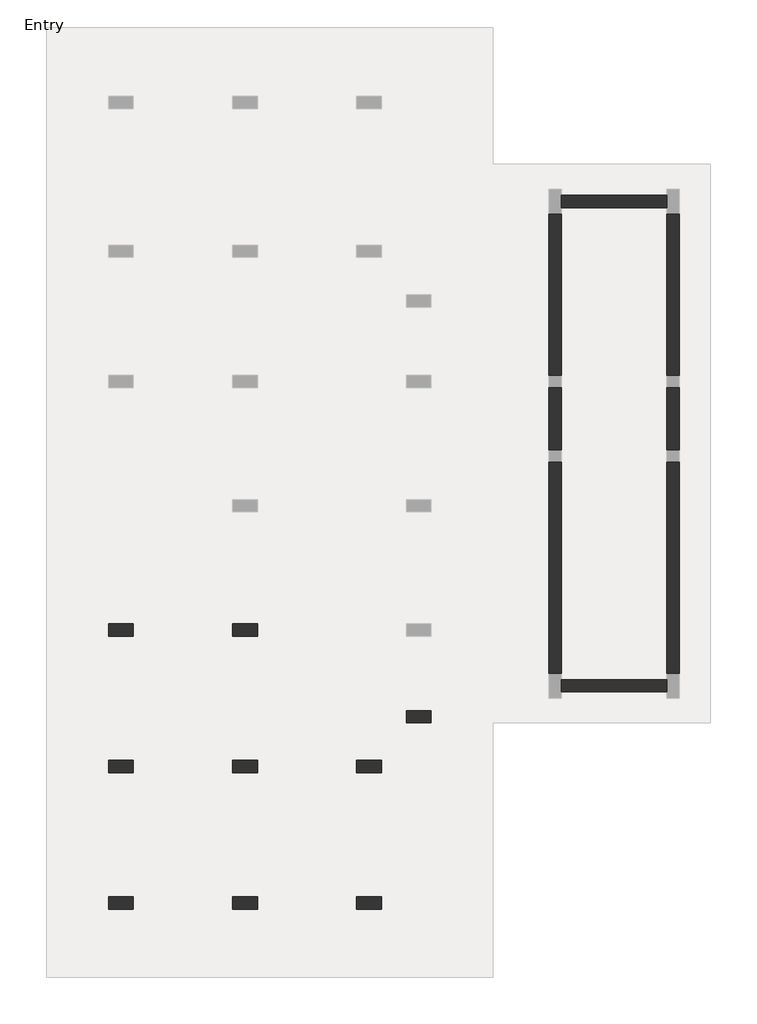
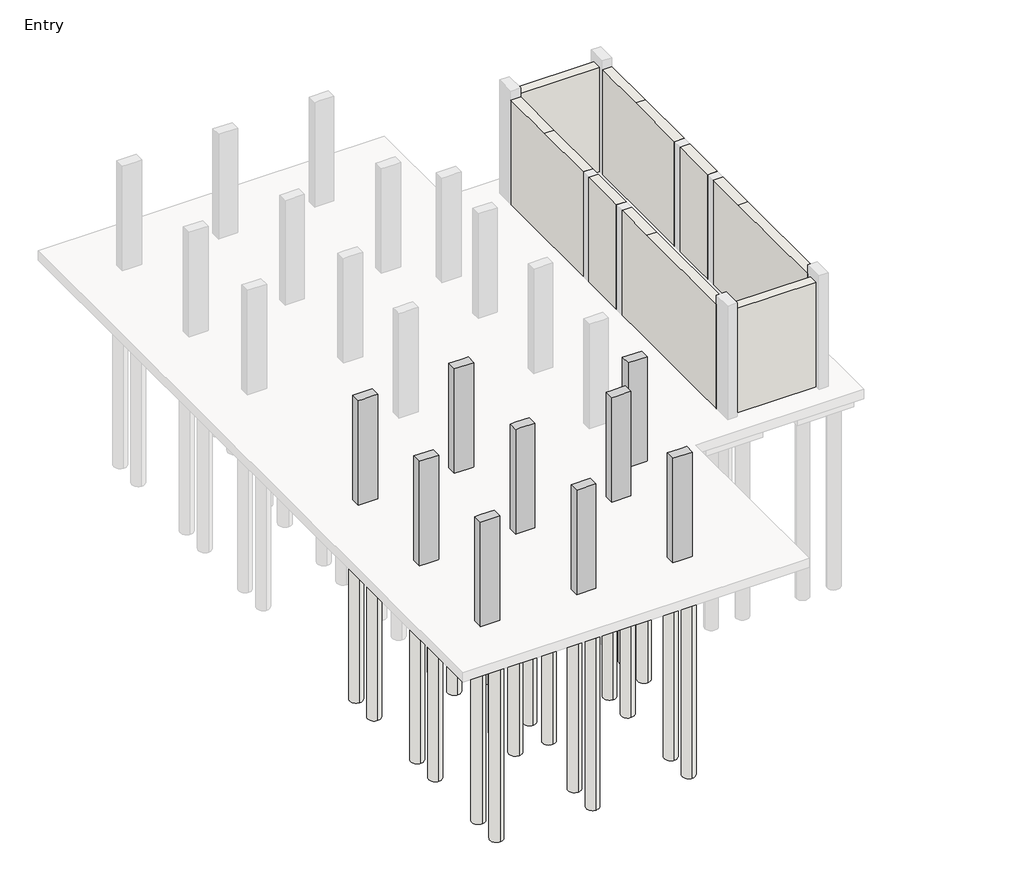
# One storey, part 1 of 3: 30 slabs, 9 columns, 8 walls.
"""IFC4 building model written with IfcOpenShell, lengths in millimetres."""

import ifcopenshell
import ifcopenshell.guid

model = None  # the IFC model being written
_history = None  # IfcOwnerHistory: only IFC2X3 demands one
_inside = {}  # id of a spatial element -> (the spatial element, [elements in it])
_under = {}  # id of a project, library or spatial element -> (it, [spatial elements below it])
_declared = {}  # id of a project -> (the project, [libraries it declares])
_typed = {}  # id of a type object -> (the type object, [elements of that type])
_made_of = {}  # id of a material, layer set ... -> (it, [elements and type objects made of it])


def new_model(schema):
    """Start an empty IFC model of exactly this schema.

    Asked for "IFC4X3", IfcOpenShell would pick the latest addendum, in which some entities
    have other attributes; the version numbers below select the first issue.
    IFC2X3 requires an IfcOwnerHistory on every rooted entity: one is made here for all.
    """
    global model, _history
    if schema == "IFC4X3":
        model = ifcopenshell.file(schema_version=(4, 3, 0, 0))
    else:
        model = ifcopenshell.file(schema=schema)
    _inside.clear()
    _under.clear()
    _declared.clear()
    _typed.clear()
    _made_of.clear()
    _history = None
    if model.schema == "IFC2X3":
        org = make("IfcOrganization", Name="unknown")
        user = make(
            "IfcPersonAndOrganization",
            ThePerson=make("IfcPerson", FamilyName="unknown"),
            TheOrganization=org,
        )
        app = make(
            "IfcApplication",
            ApplicationDeveloper=org,
            Version="unknown",
            ApplicationFullName="unknown",
            ApplicationIdentifier="unknown",
        )
        _history = make(
            "IfcOwnerHistory",
            OwningUser=user,
            OwningApplication=app,
            ChangeAction="ADDED",
            CreationDate=0,
        )
    return model


def make(cls, **values):
    """One entity of the class cls with the attributes given. An attribute that is None is left unset."""
    return model.create_entity(
        cls, **{name: value for name, value in values.items() if value is not None}
    )


def rooted(cls, **values):
    """An entity with a GlobalId (a new one), such as an element, a storey or a relation."""
    return make(cls, GlobalId=ifcopenshell.guid.new(), OwnerHistory=_history, **values)


def si_unit(unit_type, name, prefix=None):
    """IfcSIUnit, for example si_unit("LENGTHUNIT", "METRE", prefix="MILLI")."""
    return make("IfcSIUnit", UnitType=unit_type, Prefix=prefix, Name=name)


def assignment(units):
    """IfcUnitAssignment: the units of a project."""
    return None if units is None else make("IfcUnitAssignment", Units=units)


def point(xyz):
    """IfcCartesianPoint."""
    return None if xyz is None else make("IfcCartesianPoint", Coordinates=xyz)


def direction(xyz):
    """IfcDirection."""
    return None if xyz is None else make("IfcDirection", DirectionRatios=xyz)


def frame(location, z_axis=None, x_axis=None):
    """IfcAxis2Placement3D, a coordinate frame: its origin and axes. An axis left out is left unset."""
    return make(
        "IfcAxis2Placement3D",
        Location=point(location),
        Axis=direction(z_axis),
        RefDirection=direction(x_axis),
    )


def frame_2d(location, x_axis=None):
    """IfcAxis2Placement2D, a coordinate frame in the plane: its origin and x axis."""
    return make(
        "IfcAxis2Placement2D", Location=point(location), RefDirection=direction(x_axis)
    )


def origin():
    """The frame at (0, 0, 0) with its axes left unset."""
    return frame((0.0, 0.0, 0.0))


def origin_with_axes():
    """The frame at (0, 0, 0) with the z axis (0, 0, 1) and the x axis (1, 0, 0) written out."""
    return frame((0.0, 0.0, 0.0), z_axis=(0.0, 0.0, 1.0), x_axis=(1.0, 0.0, 0.0))


def place(relative_to, where):
    """IfcLocalPlacement: puts the frame where relative to a parent placement (None: the world)."""
    return make(
        "IfcLocalPlacement", PlacementRelTo=relative_to, RelativePlacement=where
    )


def context(
    kind, dimensions, precision=None, world=None, true_north=None, identifier=None
):
    """IfcGeometricRepresentationContext, for example the 3D "Model" context."""
    return make(
        "IfcGeometricRepresentationContext",
        ContextIdentifier=identifier,
        ContextType=kind,
        CoordinateSpaceDimension=dimensions,
        Precision=precision,
        WorldCoordinateSystem=world,
        TrueNorth=true_north,
    )


def project(units=None, contexts=None):
    """IfcProject with its units and contexts."""
    return rooted(
        "IfcProject",
        Name="project",
        RepresentationContexts=contexts,
        UnitsInContext=assignment(units),
    )


def spatial(cls, under=None, at=None, **own):
    """A site, building, storey or space (cls), placed at a placement, below another one or the project."""
    s = rooted(cls, ObjectPlacement=at, **own)
    if under is not None:
        _under.setdefault(under.id(), (under, []))[1].append(s)
    return s


def polyline(points):
    """IfcPolyline through the points."""
    return make("IfcPolyline", Points=[point(p) for p in points])


def circle_curve(where, radius):
    """IfcCircle in the frame where."""
    return make("IfcCircle", Position=where, Radius=radius)


def trimmed(basis, trim1, trim2, sense, master):
    """IfcTrimmedCurve: the piece of a basis curve between two trims."""
    return make(
        "IfcTrimmedCurve",
        BasisCurve=basis,
        Trim1=trim1,
        Trim2=trim2,
        SenseAgreement=sense,
        MasterRepresentation=master,
    )


def segment(curve, same_sense, transition):
    """IfcCompositeCurveSegment."""
    return make(
        "IfcCompositeCurveSegment",
        Transition=transition,
        SameSense=same_sense,
        ParentCurve=curve,
    )


def composite_curve(segments, self_intersect=None):
    """IfcCompositeCurve: segments joined end to end."""
    return make("IfcCompositeCurve", Segments=segments, SelfIntersect=self_intersect)


def outline(outer, holes=None, kind="AREA"):
    """IfcArbitraryClosedProfileDef: a profile drawn as a closed curve; with holes, ...WithVoids."""
    if holes is None:
        return make("IfcArbitraryClosedProfileDef", ProfileType=kind, OuterCurve=outer)
    return make(
        "IfcArbitraryProfileDefWithVoids",
        ProfileType=kind,
        OuterCurve=outer,
        InnerCurves=holes,
    )


def extrude(swept, where, along, depth):
    """IfcExtrudedAreaSolid: the profile swept, set in the frame where, extruded along a direction by depth."""
    return make(
        "IfcExtrudedAreaSolid",
        SweptArea=swept,
        Position=where,
        ExtrudedDirection=direction(along),
        Depth=depth,
    )


def faces_of(points, faces, orient=None, outer=None):
    """IfcFace entities. A face is a list of loops; a loop is a list of indices into points, from 0.

    orient and outer hold one flag for each loop. By default every Orientation is true, the
    first loop of a face is its IfcFaceOuterBound and the others are IfcFaceBound.
    """
    made = []
    for i, loops in enumerate(faces):
        bounds = []
        for j, loop in enumerate(loops):
            is_outer = j == 0 if outer is None else outer[i][j]
            bounds.append(
                make(
                    "IfcFaceOuterBound" if is_outer else "IfcFaceBound",
                    Bound=make("IfcPolyLoop", Polygon=[points[k] for k in loop]),
                    Orientation=True if orient is None else orient[i][j],
                )
            )
        made.append(make("IfcFace", Bounds=bounds))
    return made


def faceted_brep(points, faces, orient=None, outer=None, voids=None):
    """IfcFacetedBrep: a solid bounded by flat faces; with voids (closed shells), ...WithVoids."""
    shared = [point(p) for p in points]
    hull = make("IfcClosedShell", CfsFaces=faces_of(shared, faces, orient, outer))
    if voids is None:
        return make("IfcFacetedBrep", Outer=hull)
    return make(
        "IfcFacetedBrepWithVoids",
        Outer=hull,
        Voids=[
            make(cls, CfsFaces=faces_of(shared, fs, o, b)) for cls, fs, o, b in voids
        ],
    )


def shape(context_of_items, identifier, shape_type, items):
    """IfcShapeRepresentation: the items that make up one representation, for example the "Body"."""
    return make(
        "IfcShapeRepresentation",
        ContextOfItems=context_of_items,
        RepresentationIdentifier=identifier,
        RepresentationType=shape_type,
        Items=items,
    )


def made_of(thing, what):
    """Note that an element or type object is made of a material, layer set ...; save() writes the relation."""
    if what is not None:
        _made_of.setdefault(what.id(), (what, []))[1].append(thing)
    return thing


def element(
    cls,
    number,
    at=None,
    inside=None,
    cuts=None,
    type_object=None,
    material=None,
    context=None,
    identifier="Body",
    shape_type=None,
    held_by="IfcProductDefinitionShape",
    body=None,
    shapes=None,
    **own,
):
    """One element of the class cls, such as IfcWall. Its Tag is "e" and its number.

    at: its placement. inside: the storey or other place that contains it. cuts: it is an
    opening in that element (IfcRelVoidsElement). A single representation is given by context,
    identifier, shape_type and body (its items); several are given by shapes. held_by: the class
    of the entity that holds the representations. save() writes the other relations.
    """
    e = rooted(cls, Tag="e%d" % number, ObjectPlacement=at, **own)
    if body is not None:
        shapes = [shape(context, identifier, shape_type, body)]
    if shapes is not None:
        e.Representation = make(held_by, Representations=shapes)
    if inside is not None:
        _inside.setdefault(inside.id(), (inside, []))[1].append(e)
    if cuts is not None:
        rooted(
            "IfcRelVoidsElement", RelatingBuildingElement=cuts, RelatedOpeningElement=e
        )
    if type_object is not None:
        _typed.setdefault(type_object.id(), (type_object, []))[1].append(e)
    return made_of(e, material)


def aggregate(whole, parts):
    """IfcRelAggregates: a whole, such as a stair, and the parts it consists of."""
    return rooted("IfcRelAggregates", RelatingObject=whole, RelatedObjects=parts)


def save(model, path):
    """Write the relations noted so far, then the file.

    IfcRelAggregates (storeys below a building ...), IfcRelContainedInSpatialStructure (elements
    in a storey), IfcRelDefinesByType, IfcRelAssociatesMaterial and IfcRelDeclares: one each for
    every whole, place, type object, material and project.
    """
    for whole, parts in _under.values():
        aggregate(whole, parts)
    for where, things in _inside.values():
        rooted(
            "IfcRelContainedInSpatialStructure",
            RelatedElements=things,
            RelatingStructure=where,
        )
    for kind, things in _typed.values():
        rooted("IfcRelDefinesByType", RelatedObjects=things, RelatingType=kind)
    for what, things in _made_of.values():
        rooted("IfcRelAssociatesMaterial", RelatedObjects=things, RelatingMaterial=what)
    for by, libraries in _declared.values():
        rooted("IfcRelDeclares", RelatingContext=by, RelatedDefinitions=libraries)
    model.write(path)


model = new_model("IFC4")

# Units and contexts
model_context = context("Model", 3, world=origin())
ifc_project = project(units=[si_unit("LENGTHUNIT", "METRE", prefix="MILLI")], contexts=[model_context])

# Site, building, storey
site = spatial("IfcSite", under=ifc_project)
building = spatial("IfcBuilding", under=site)
storey = spatial("IfcBuildingStorey", under=building, Name="Entry", Elevation=0.0)

# Columns
placement = place(None, origin())
element("IfcColumn", 1, ObjectType="Concrete-Rectangular-Column : 12 x 24", at=placement, inside=storey, context=model_context, shape_type="Brep", body=[
    faceted_brep([(-15677.5554735, 1692.9867088, 0.0), (-15067.9554735, 1692.9867088, 0.0), (-15067.9554735, 1388.1867088, 0.0), (-15677.5554735, 1388.1867088, 0.0), (-15677.5554735, 1692.9867088, 3505.2), (-15067.9554735, 1692.9867088, 3505.2), (-15067.9554735, 1692.9867088, 2895.6), (-15067.9554735, 1388.1867088, 3505.2), (-15067.9554735, 1388.1867088, 2895.6), (-15220.3554735, 1388.1867088, 3505.2), (-15525.1554735, 1388.1867088, 3505.2), (-15677.5554735, 1388.1867088, 3505.2)], [[[0, 1, 2, 3]], [[4, 5, 6, 1, 0]], [[5, 7, 8, 2, 1, 6]], [[7, 9, 10, 11, 3, 2, 8]], [[11, 4, 0, 3]], [[4, 11, 10, 9, 7, 5]]]),
])
element("IfcColumn", 2, ObjectType="Concrete-Rectangular-Column : 12 x 24", at=placement, inside=storey, context=model_context, shape_type="Brep", body=[
    faceted_brep([(-12629.5554735, 1692.9867088, 0.0), (-12019.9554735, 1692.9867088, 0.0), (-12019.9554735, 1388.1867088, 0.0), (-12629.5554735, 1388.1867088, 0.0), (-12629.5554735, 1692.9867088, 3505.2), (-12477.1554735, 1692.9867088, 3505.2), (-12172.3554735, 1692.9867088, 3505.2), (-12019.9554735, 1692.9867088, 3505.2), (-12019.9554735, 1692.9867088, 2895.6), (-12629.5554735, 1692.9867088, 2895.6), (-12019.9554735, 1388.1867088, 3505.2), (-12019.9554735, 1388.1867088, 2895.6), (-12172.3554735, 1388.1867088, 3505.2), (-12477.1554735, 1388.1867088, 3505.2), (-12629.5554735, 1388.1867088, 3505.2), (-12629.5554735, 1388.1867088, 2895.6)], [[[0, 1, 2, 3]], [[4, 5, 6, 7, 8, 1, 0, 9]], [[7, 10, 11, 2, 1, 8]], [[10, 12, 13, 14, 15, 3, 2, 11]], [[14, 4, 9, 0, 3, 15]], [[4, 14, 13, 12, 10, 7, 6, 5]]]),
])
element("IfcColumn", 3, ObjectType="Concrete-Rectangular-Column : 12 x 24", at=placement, inside=storey, context=model_context, shape_type="Brep", body=[
    faceted_brep([(-8362.3554735, -440.6132912, 0.0), (-7752.7554735, -440.6132912, 0.0), (-7752.7554735, -745.4132912, 0.0), (-8362.3554735, -745.4132912, 0.0), (-8362.3554735, -440.6132912, 3505.2), (-8209.9554735, -440.6132912, 3505.2), (-7905.1554735, -440.6132912, 3505.2), (-7752.7554735, -440.6132912, 3505.2), (-8362.3554735, -440.6132912, 2895.6), (-7752.7554735, -745.4132912, 3505.2), (-8362.3554735, -745.4132912, 3505.2), (-8362.3554735, -745.4132912, 2895.6)], [[[0, 1, 2, 3]], [[4, 5, 6, 7, 1, 0, 8]], [[7, 9, 2, 1]], [[9, 10, 11, 3, 2]], [[10, 4, 8, 0, 3, 11]], [[4, 10, 9, 7, 6, 5]]]),
])
element("IfcColumn", 4, ObjectType="Concrete-Rectangular-Column : 12 x 24", at=placement, inside=storey, context=model_context, shape_type="Brep", body=[
    faceted_brep([(-15677.5554735, -1659.8132912, 0.0), (-15067.9554735, -1659.8132912, 0.0), (-15067.9554735, -1964.6132912, 0.0), (-15677.5554735, -1964.6132912, 0.0), (-15677.5554735, -1659.8132912, 3505.2), (-15525.1554735, -1659.8132912, 3505.2), (-15220.3554735, -1659.8132912, 3505.2), (-15067.9554735, -1659.8132912, 3505.2), (-15067.9554735, -1659.8132912, 2895.6), (-15067.9554735, -1964.6132912, 3505.2), (-15067.9554735, -1964.6132912, 2895.6), (-15220.3554735, -1964.6132912, 3505.2), (-15525.1554735, -1964.6132912, 3505.2), (-15677.5554735, -1964.6132912, 3505.2)], [[[0, 1, 2, 3]], [[4, 5, 6, 7, 8, 1, 0]], [[7, 9, 10, 2, 1, 8]], [[9, 11, 12, 13, 3, 2, 10]], [[13, 4, 0, 3]], [[4, 13, 12, 11, 9, 7, 6, 5]]]),
])
element("IfcColumn", 5, ObjectType="Concrete-Rectangular-Column : 12 x 24", at=placement, inside=storey, context=model_context, shape_type="Brep", body=[
    faceted_brep([(-12629.5554735, -1659.8132912, 0.0), (-12019.9554735, -1659.8132912, 0.0), (-12019.9554735, -1964.6132912, 0.0), (-12629.5554735, -1964.6132912, 0.0), (-12629.5554735, -1659.8132912, 3505.2), (-12477.1554735, -1659.8132912, 3505.2), (-12172.3554735, -1659.8132912, 3505.2), (-12019.9554735, -1659.8132912, 3505.2), (-12019.9554735, -1659.8132912, 2895.6), (-12629.5554735, -1659.8132912, 2895.6), (-12019.9554735, -1964.6132912, 3505.2), (-12019.9554735, -1964.6132912, 2895.6), (-12172.3554735, -1964.6132912, 3505.2), (-12477.1554735, -1964.6132912, 3505.2), (-12629.5554735, -1964.6132912, 3505.2), (-12629.5554735, -1964.6132912, 2895.6)], [[[0, 1, 2, 3]], [[4, 5, 6, 7, 8, 1, 0, 9]], [[7, 10, 11, 2, 1, 8]], [[10, 12, 13, 14, 15, 3, 2, 11]], [[14, 4, 9, 0, 3, 15]], [[4, 14, 13, 12, 10, 7, 6, 5]]]),
])
element("IfcColumn", 6, ObjectType="Concrete-Rectangular-Column : 12 x 24", at=placement, inside=storey, context=model_context, shape_type="Brep", body=[
    faceted_brep([(-9581.5554735, -1659.8132912, 0.0), (-8971.9554735, -1659.8132912, 0.0), (-8971.9554735, -1964.6132912, 0.0), (-9581.5554735, -1964.6132912, 0.0), (-9581.5554735, -1659.8132912, 3505.2), (-9429.1554735, -1659.8132912, 3505.2), (-9124.3554735, -1659.8132912, 3505.2), (-8971.9554735, -1659.8132912, 3505.2), (-9581.5554735, -1659.8132912, 2895.6), (-8971.9554735, -1964.6132912, 3505.2), (-9124.3554735, -1964.6132912, 3505.2), (-9429.1554735, -1964.6132912, 3505.2), (-9581.5554735, -1964.6132912, 3505.2), (-9581.5554735, -1964.6132912, 2895.6)], [[[0, 1, 2, 3]], [[4, 5, 6, 7, 1, 0, 8]], [[7, 9, 2, 1]], [[9, 10, 11, 12, 13, 3, 2]], [[12, 4, 8, 0, 3, 13]], [[4, 12, 11, 10, 9, 7, 6, 5]]]),
])
element("IfcColumn", 7, ObjectType="Concrete-Rectangular-Column : 12 x 24", at=placement, inside=storey, context=model_context, shape_type="Brep", body=[
    faceted_brep([(-15677.5554735, -5012.6132912, 0.0), (-15067.9554735, -5012.6132912, 0.0), (-15067.9554735, -5317.4132912, 0.0), (-15677.5554735, -5317.4132912, 0.0), (-15677.5554735, -5012.6132912, 3505.2), (-15525.1554735, -5012.6132912, 3505.2), (-15220.3554735, -5012.6132912, 3505.2), (-15067.9554735, -5012.6132912, 3505.2), (-15067.9554735, -5012.6132912, 2895.6), (-15067.9554735, -5317.4132912, 3505.2), (-15067.9554735, -5317.4132912, 2895.6), (-15677.5554735, -5317.4132912, 3505.2)], [[[0, 1, 2, 3]], [[4, 5, 6, 7, 8, 1, 0]], [[7, 9, 10, 2, 1, 8]], [[9, 11, 3, 2, 10]], [[11, 4, 0, 3]], [[4, 11, 9, 7, 6, 5]]]),
])
element("IfcColumn", 8, ObjectType="Concrete-Rectangular-Column : 12 x 24", at=placement, inside=storey, context=model_context, shape_type="Brep", body=[
    faceted_brep([(-12629.5554735, -5012.6132912, 0.0), (-12019.9554735, -5012.6132912, 0.0), (-12019.9554735, -5317.4132912, 0.0), (-12629.5554735, -5317.4132912, 0.0), (-12629.5554735, -5012.6132912, 3505.2), (-12477.1554735, -5012.6132912, 3505.2), (-12172.3554735, -5012.6132912, 3505.2), (-12019.9554735, -5012.6132912, 3505.2), (-12019.9554735, -5012.6132912, 2895.6), (-12629.5554735, -5012.6132912, 2895.6), (-12019.9554735, -5317.4132912, 3505.2), (-12019.9554735, -5317.4132912, 2895.6), (-12629.5554735, -5317.4132912, 3505.2), (-12629.5554735, -5317.4132912, 2895.6)], [[[0, 1, 2, 3]], [[4, 5, 6, 7, 8, 1, 0, 9]], [[7, 10, 11, 2, 1, 8]], [[10, 12, 13, 3, 2, 11]], [[12, 4, 9, 0, 3, 13]], [[4, 12, 10, 7, 6, 5]]]),
])
element("IfcColumn", 9, ObjectType="Concrete-Rectangular-Column : 12 x 24", at=placement, inside=storey, context=model_context, shape_type="Brep", body=[
    faceted_brep([(-9581.5554735, -5012.6132912, 0.0), (-8971.9554735, -5012.6132912, 0.0), (-8971.9554735, -5317.4132912, 0.0), (-9581.5554735, -5317.4132912, 0.0), (-9581.5554735, -5012.6132912, 3505.2), (-9429.1554735, -5012.6132912, 3505.2), (-9124.3554735, -5012.6132912, 3505.2), (-8971.9554735, -5012.6132912, 3505.2), (-9581.5554735, -5012.6132912, 2895.6), (-8971.9554735, -5317.4132912, 3505.2), (-9581.5554735, -5317.4132912, 3505.2), (-9581.5554735, -5317.4132912, 2895.6)], [[[0, 1, 2, 3]], [[4, 5, 6, 7, 1, 0, 8]], [[7, 9, 2, 1]], [[9, 10, 11, 3, 2]], [[10, 4, 8, 0, 3, 11]], [[4, 10, 9, 7, 6, 5]]]),
])

# Slabs
element("IfcSlab", 10, ObjectType="Pile Cap-2 Pile : 31\"x61\"x35\"", at=placement, inside=storey, context=model_context, shape_type="SweptSolid", body=[
    extrude(outline(polyline([(-15779.1554735, 2442.2867088), (-14966.3554735, 2442.2867088), (-14966.3554735, 638.8867088), (-15779.1554735, 638.8867088), (-15779.1554735, 2442.2867088)])), frame((0.0, 0.0, -889.0), z_axis=(0.0, 0.0, 1.0), x_axis=(1.0, 0.0, 0.0)), (0.0, 0.0, 1.0), 584.2),
])
element("IfcSlab", 11, ObjectType="Pile Cap-2 Pile : 31\"x61\"x35\"", at=placement, inside=storey, context=model_context, shape_type="SweptSolid", body=[
    extrude(outline(polyline([(-15779.1554735, -910.5132912), (-14966.3554735, -910.5132912), (-14966.3554735, -2713.9132912), (-15779.1554735, -2713.9132912), (-15779.1554735, -910.5132912)])), frame((0.0, 0.0, -889.0), z_axis=(0.0, 0.0, 1.0), x_axis=(1.0, 0.0, 0.0)), (0.0, 0.0, 1.0), 584.2),
])
element("IfcSlab", 12, ObjectType="Pile Cap-2 Pile : 31\"x61\"x35\"", at=placement, inside=storey, context=model_context, shape_type="SweptSolid", body=[
    extrude(outline(polyline([(-15779.1554735, -4263.3132912), (-14966.3554735, -4263.3132912), (-14966.3554735, -6066.7132912), (-15779.1554735, -6066.7132912), (-15779.1554735, -4263.3132912)])), frame((0.0, 0.0, -889.0), z_axis=(0.0, 0.0, 1.0), x_axis=(1.0, 0.0, 0.0)), (0.0, 0.0, 1.0), 584.2),
])
element("IfcSlab", 13, ObjectType="Pile Cap-2 Pile : 31\"x61\"x35\"", at=placement, inside=storey, context=model_context, shape_type="SweptSolid", body=[
    extrude(outline(polyline([(-12731.1554735, -4263.3132912), (-11918.3554735, -4263.3132912), (-11918.3554735, -6066.7132912), (-12731.1554735, -6066.7132912), (-12731.1554735, -4263.3132912)])), frame((0.0, 0.0, -889.0), z_axis=(0.0, 0.0, 1.0), x_axis=(1.0, 0.0, 0.0)), (0.0, 0.0, 1.0), 584.2),
])
element("IfcSlab", 14, ObjectType="Pile Cap-2 Pile : 31\"x61\"x35\"", at=placement, inside=storey, context=model_context, shape_type="SweptSolid", body=[
    extrude(outline(polyline([(-9683.1554735, -4263.3132912), (-8870.3554735, -4263.3132912), (-8870.3554735, -6066.7132912), (-9683.1554735, -6066.7132912), (-9683.1554735, -4263.3132912)])), frame((0.0, 0.0, -889.0), z_axis=(0.0, 0.0, 1.0), x_axis=(1.0, 0.0, 0.0)), (0.0, 0.0, 1.0), 584.2),
])
element("IfcSlab", 15, ObjectType="Pile Cap-2 Pile : 31\"x61\"x35\"", at=placement, inside=storey, context=model_context, shape_type="SweptSolid", body=[
    extrude(outline(polyline([(-9683.1554735, -910.5132912), (-8870.3554735, -910.5132912), (-8870.3554735, -2713.9132912), (-9683.1554735, -2713.9132912), (-9683.1554735, -910.5132912)])), frame((0.0, 0.0, -889.0), z_axis=(0.0, 0.0, 1.0), x_axis=(1.0, 0.0, 0.0)), (0.0, 0.0, 1.0), 584.2),
])
element("IfcSlab", 16, ObjectType="Pile Cap-2 Pile : 31\"x61\"x35\"", at=placement, inside=storey, context=model_context, shape_type="SweptSolid", body=[
    extrude(outline(polyline([(-8463.9554735, 308.6867088), (-7651.1554735, 308.6867088), (-7651.1554735, -1494.7132912), (-8463.9554735, -1494.7132912), (-8463.9554735, 308.6867088)])), frame((0.0, 0.0, -889.0), z_axis=(0.0, 0.0, 1.0), x_axis=(1.0, 0.0, 0.0)), (0.0, 0.0, 1.0), 584.2),
])
element("IfcSlab", 17, ObjectType="Pile Cap-4 Pile : 72\"x72\"x35\"", at=placement, inside=storey, context=model_context, shape_type="SweptSolid", body=[
    extrude(outline(polyline([(-13239.1554735, 2454.9867088), (-11410.3554735, 2454.9867088), (-11410.3554735, 626.1867088), (-13239.1554735, 626.1867088), (-13239.1554735, 2454.9867088)])), frame((0.0, 0.0, -889.0), z_axis=(0.0, 0.0, 1.0), x_axis=(1.0, 0.0, 0.0)), (0.0, 0.0, 1.0), 584.2),
])
element("IfcSlab", 18, ObjectType="Pile Cap-4 Pile : 72\"x72\"x35\"", at=placement, inside=storey, context=model_context, shape_type="SweptSolid", body=[
    extrude(outline(polyline([(-13239.1554735, -897.8132912), (-11410.3554735, -897.8132912), (-11410.3554735, -2726.6132912), (-13239.1554735, -2726.6132912), (-13239.1554735, -897.8132912)])), frame((0.0, 0.0, -889.0), z_axis=(0.0, 0.0, 1.0), x_axis=(1.0, 0.0, 0.0)), (0.0, 0.0, 1.0), 584.2),
])
element("IfcSlab", 19, ObjectType="Pile-Steel Pipe : 16\" Diameter", at=placement, inside=storey, context=model_context, shape_type="SweptSolid", body=[
    extrude(outline(composite_curve([segment(trimmed(circle_curve(frame_2d((-12858.1554735, 1007.1867088)), 203.2), [point((-12858.1554735, 803.9867088))], [point((-12858.1554735, 1210.3867088))], False, "CARTESIAN"), True, "CONTINUOUS"), segment(trimmed(circle_curve(frame_2d((-12858.1554735, 1007.1867088)), 203.2), [point((-12858.1554735, 1210.3867088))], [point((-12858.1554735, 803.9867088))], False, "CARTESIAN"), True, "CONTINUOUS")], self_intersect=False)), frame((0.0, 0.0, -6985.0), z_axis=(0.0, 0.0, 1.0), x_axis=(1.0, 0.0, 0.0)), (0.0, 0.0, 1.0), 6096.0),
])
element("IfcSlab", 20, ObjectType="Pile-Steel Pipe : 16\" Diameter", at=placement, inside=storey, context=model_context, shape_type="SweptSolid", body=[
    extrude(outline(composite_curve([segment(trimmed(circle_curve(frame_2d((-11791.3554735, 1007.1867088)), 203.2), [point((-11791.3554735, 803.9867088))], [point((-11791.3554735, 1210.3867088))], False, "CARTESIAN"), True, "CONTINUOUS"), segment(trimmed(circle_curve(frame_2d((-11791.3554735, 1007.1867088)), 203.2), [point((-11791.3554735, 1210.3867088))], [point((-11791.3554735, 803.9867088))], False, "CARTESIAN"), True, "CONTINUOUS")], self_intersect=False)), frame((0.0, 0.0, -6985.0), z_axis=(0.0, 0.0, 1.0), x_axis=(1.0, 0.0, 0.0)), (0.0, 0.0, 1.0), 6096.0),
])
element("IfcSlab", 21, ObjectType="Pile-Steel Pipe : 16\" Diameter", at=placement, inside=storey, context=model_context, shape_type="SweptSolid", body=[
    extrude(outline(composite_curve([segment(trimmed(circle_curve(frame_2d((-12858.1554735, 2073.9867088)), 203.2), [point((-12858.1554735, 1870.7867088))], [point((-12858.1554735, 2277.1867088))], False, "CARTESIAN"), True, "CONTINUOUS"), segment(trimmed(circle_curve(frame_2d((-12858.1554735, 2073.9867088)), 203.2), [point((-12858.1554735, 2277.1867088))], [point((-12858.1554735, 1870.7867088))], False, "CARTESIAN"), True, "CONTINUOUS")], self_intersect=False)), frame((0.0, 0.0, -6985.0), z_axis=(0.0, 0.0, 1.0), x_axis=(1.0, 0.0, 0.0)), (0.0, 0.0, 1.0), 6096.0),
])
element("IfcSlab", 22, ObjectType="Pile-Steel Pipe : 16\" Diameter", at=placement, inside=storey, context=model_context, shape_type="SweptSolid", body=[
    extrude(outline(composite_curve([segment(trimmed(circle_curve(frame_2d((-12858.1554735, -2345.6132912)), 203.2), [point((-12858.1554735, -2548.8132912))], [point((-12858.1554735, -2142.4132912))], False, "CARTESIAN"), True, "CONTINUOUS"), segment(trimmed(circle_curve(frame_2d((-12858.1554735, -2345.6132912)), 203.2), [point((-12858.1554735, -2142.4132912))], [point((-12858.1554735, -2548.8132912))], False, "CARTESIAN"), True, "CONTINUOUS")], self_intersect=False)), frame((0.0, 0.0, -6985.0), z_axis=(0.0, 0.0, 1.0), x_axis=(1.0, 0.0, 0.0)), (0.0, 0.0, 1.0), 6096.0),
])
element("IfcSlab", 23, ObjectType="Pile-Steel Pipe : 16\" Diameter", at=placement, inside=storey, context=model_context, shape_type="SweptSolid", body=[
    extrude(outline(composite_curve([segment(trimmed(circle_curve(frame_2d((-11791.3554735, -2345.6132912)), 203.2), [point((-11791.3554735, -2548.8132912))], [point((-11791.3554735, -2142.4132912))], False, "CARTESIAN"), True, "CONTINUOUS"), segment(trimmed(circle_curve(frame_2d((-11791.3554735, -2345.6132912)), 203.2), [point((-11791.3554735, -2142.4132912))], [point((-11791.3554735, -2548.8132912))], False, "CARTESIAN"), True, "CONTINUOUS")], self_intersect=False)), frame((0.0, 0.0, -6985.0), z_axis=(0.0, 0.0, 1.0), x_axis=(1.0, 0.0, 0.0)), (0.0, 0.0, 1.0), 6096.0),
])
element("IfcSlab", 24, ObjectType="Pile-Steel Pipe : 16\" Diameter", at=placement, inside=storey, context=model_context, shape_type="SweptSolid", body=[
    extrude(outline(composite_curve([segment(trimmed(circle_curve(frame_2d((-11791.3554735, -1278.8132912)), 203.2), [point((-11791.3554735, -1482.0132912))], [point((-11791.3554735, -1075.6132912))], False, "CARTESIAN"), True, "CONTINUOUS"), segment(trimmed(circle_curve(frame_2d((-11791.3554735, -1278.8132912)), 203.2), [point((-11791.3554735, -1075.6132912))], [point((-11791.3554735, -1482.0132912))], False, "CARTESIAN"), True, "CONTINUOUS")], self_intersect=False)), frame((0.0, 0.0, -6985.0), z_axis=(0.0, 0.0, 1.0), x_axis=(1.0, 0.0, 0.0)), (0.0, 0.0, 1.0), 6096.0),
])
element("IfcSlab", 25, ObjectType="Pile-Steel Pipe : 16\" Diameter", at=placement, inside=storey, context=model_context, shape_type="SweptSolid", body=[
    extrude(outline(composite_curve([segment(trimmed(circle_curve(frame_2d((-12858.1554735, -1278.8132912)), 203.2), [point((-12858.1554735, -1482.0132912))], [point((-12858.1554735, -1075.6132912))], False, "CARTESIAN"), True, "CONTINUOUS"), segment(trimmed(circle_curve(frame_2d((-12858.1554735, -1278.8132912)), 203.2), [point((-12858.1554735, -1075.6132912))], [point((-12858.1554735, -1482.0132912))], False, "CARTESIAN"), True, "CONTINUOUS")], self_intersect=False)), frame((0.0, 0.0, -6985.0), z_axis=(0.0, 0.0, 1.0), x_axis=(1.0, 0.0, 0.0)), (0.0, 0.0, 1.0), 6096.0),
])
element("IfcSlab", 26, ObjectType="Pile-Steel Pipe : 16\" Diameter", at=placement, inside=storey, context=model_context, shape_type="SweptSolid", body=[
    extrude(outline(composite_curve([segment(trimmed(circle_curve(frame_2d((-15372.7554735, 2035.8867088)), 203.2), [point((-15372.7554735, 1832.6867088))], [point((-15372.7554735, 2239.0867088))], False, "CARTESIAN"), True, "CONTINUOUS"), segment(trimmed(circle_curve(frame_2d((-15372.7554735, 2035.8867088)), 203.2), [point((-15372.7554735, 2239.0867088))], [point((-15372.7554735, 1832.6867088))], False, "CARTESIAN"), True, "CONTINUOUS")], self_intersect=False)), frame((0.0, 0.0, -6985.0), z_axis=(0.0, 0.0, 1.0), x_axis=(1.0, 0.0, 0.0)), (0.0, 0.0, 1.0), 6096.0),
])
element("IfcSlab", 27, ObjectType="Pile-Steel Pipe : 16\" Diameter", at=placement, inside=storey, context=model_context, shape_type="SweptSolid", body=[
    extrude(outline(composite_curve([segment(trimmed(circle_curve(frame_2d((-15372.7554735, 1045.2867088)), 203.2), [point((-15372.7554735, 842.0867088))], [point((-15372.7554735, 1248.4867088))], False, "CARTESIAN"), True, "CONTINUOUS"), segment(trimmed(circle_curve(frame_2d((-15372.7554735, 1045.2867088)), 203.2), [point((-15372.7554735, 1248.4867088))], [point((-15372.7554735, 842.0867088))], False, "CARTESIAN"), True, "CONTINUOUS")], self_intersect=False)), frame((0.0, 0.0, -6985.0), z_axis=(0.0, 0.0, 1.0), x_axis=(1.0, 0.0, 0.0)), (0.0, 0.0, 1.0), 6096.0),
])
element("IfcSlab", 28, ObjectType="Pile-Steel Pipe : 16\" Diameter", at=placement, inside=storey, context=model_context, shape_type="SweptSolid", body=[
    extrude(outline(composite_curve([segment(trimmed(circle_curve(frame_2d((-15372.7554735, -1316.9132912)), 203.2), [point((-15372.7554735, -1520.1132912))], [point((-15372.7554735, -1113.7132912))], False, "CARTESIAN"), True, "CONTINUOUS"), segment(trimmed(circle_curve(frame_2d((-15372.7554735, -1316.9132912)), 203.2), [point((-15372.7554735, -1113.7132912))], [point((-15372.7554735, -1520.1132912))], False, "CARTESIAN"), True, "CONTINUOUS")], self_intersect=False)), frame((0.0, 0.0, -6985.0), z_axis=(0.0, 0.0, 1.0), x_axis=(1.0, 0.0, 0.0)), (0.0, 0.0, 1.0), 6096.0),
])
element("IfcSlab", 29, ObjectType="Pile-Steel Pipe : 16\" Diameter", at=placement, inside=storey, context=model_context, shape_type="SweptSolid", body=[
    extrude(outline(composite_curve([segment(trimmed(circle_curve(frame_2d((-15372.7554735, -2307.5132912)), 203.2), [point((-15372.7554735, -2510.7132912))], [point((-15372.7554735, -2104.3132912))], False, "CARTESIAN"), True, "CONTINUOUS"), segment(trimmed(circle_curve(frame_2d((-15372.7554735, -2307.5132912)), 203.2), [point((-15372.7554735, -2104.3132912))], [point((-15372.7554735, -2510.7132912))], False, "CARTESIAN"), True, "CONTINUOUS")], self_intersect=False)), frame((0.0, 0.0, -6985.0), z_axis=(0.0, 0.0, 1.0), x_axis=(1.0, 0.0, 0.0)), (0.0, 0.0, 1.0), 6096.0),
])
element("IfcSlab", 30, ObjectType="Pile-Steel Pipe : 16\" Diameter", at=placement, inside=storey, context=model_context, shape_type="SweptSolid", body=[
    extrude(outline(composite_curve([segment(trimmed(circle_curve(frame_2d((-15372.7554735, -4669.7132912)), 203.2), [point((-15372.7554735, -4872.9132912))], [point((-15372.7554735, -4466.5132912))], False, "CARTESIAN"), True, "CONTINUOUS"), segment(trimmed(circle_curve(frame_2d((-15372.7554735, -4669.7132912)), 203.2), [point((-15372.7554735, -4466.5132912))], [point((-15372.7554735, -4872.9132912))], False, "CARTESIAN"), True, "CONTINUOUS")], self_intersect=False)), frame((0.0, 0.0, -6985.0), z_axis=(0.0, 0.0, 1.0), x_axis=(1.0, 0.0, 0.0)), (0.0, 0.0, 1.0), 6096.0),
])
element("IfcSlab", 31, ObjectType="Pile-Steel Pipe : 16\" Diameter", at=placement, inside=storey, context=model_context, shape_type="SweptSolid", body=[
    extrude(outline(composite_curve([segment(trimmed(circle_curve(frame_2d((-15372.7554735, -5660.3132912)), 203.2), [point((-15372.7554735, -5863.5132912))], [point((-15372.7554735, -5457.1132912))], False, "CARTESIAN"), True, "CONTINUOUS"), segment(trimmed(circle_curve(frame_2d((-15372.7554735, -5660.3132912)), 203.2), [point((-15372.7554735, -5457.1132912))], [point((-15372.7554735, -5863.5132912))], False, "CARTESIAN"), True, "CONTINUOUS")], self_intersect=False)), frame((0.0, 0.0, -6985.0), z_axis=(0.0, 0.0, 1.0), x_axis=(1.0, 0.0, 0.0)), (0.0, 0.0, 1.0), 6096.0),
])
element("IfcSlab", 32, ObjectType="Pile-Steel Pipe : 16\" Diameter", at=placement, inside=storey, context=model_context, shape_type="SweptSolid", body=[
    extrude(outline(composite_curve([segment(trimmed(circle_curve(frame_2d((-12324.7554735, -4669.7132912)), 203.2), [point((-12324.7554735, -4872.9132912))], [point((-12324.7554735, -4466.5132912))], False, "CARTESIAN"), True, "CONTINUOUS"), segment(trimmed(circle_curve(frame_2d((-12324.7554735, -4669.7132912)), 203.2), [point((-12324.7554735, -4466.5132912))], [point((-12324.7554735, -4872.9132912))], False, "CARTESIAN"), True, "CONTINUOUS")], self_intersect=False)), frame((0.0, 0.0, -6985.0), z_axis=(0.0, 0.0, 1.0), x_axis=(1.0, 0.0, 0.0)), (0.0, 0.0, 1.0), 6096.0),
])
element("IfcSlab", 33, ObjectType="Pile-Steel Pipe : 16\" Diameter", at=placement, inside=storey, context=model_context, shape_type="SweptSolid", body=[
    extrude(outline(composite_curve([segment(trimmed(circle_curve(frame_2d((-12324.7554735, -5660.3132912)), 203.2), [point((-12324.7554735, -5863.5132912))], [point((-12324.7554735, -5457.1132912))], False, "CARTESIAN"), True, "CONTINUOUS"), segment(trimmed(circle_curve(frame_2d((-12324.7554735, -5660.3132912)), 203.2), [point((-12324.7554735, -5457.1132912))], [point((-12324.7554735, -5863.5132912))], False, "CARTESIAN"), True, "CONTINUOUS")], self_intersect=False)), frame((0.0, 0.0, -6985.0), z_axis=(0.0, 0.0, 1.0), x_axis=(1.0, 0.0, 0.0)), (0.0, 0.0, 1.0), 6096.0),
])
element("IfcSlab", 34, ObjectType="Pile-Steel Pipe : 16\" Diameter", at=placement, inside=storey, context=model_context, shape_type="SweptSolid", body=[
    extrude(outline(composite_curve([segment(trimmed(circle_curve(frame_2d((-9276.7554735, -4669.7132912)), 203.2), [point((-9276.7554735, -4872.9132912))], [point((-9276.7554735, -4466.5132912))], False, "CARTESIAN"), True, "CONTINUOUS"), segment(trimmed(circle_curve(frame_2d((-9276.7554735, -4669.7132912)), 203.2), [point((-9276.7554735, -4466.5132912))], [point((-9276.7554735, -4872.9132912))], False, "CARTESIAN"), True, "CONTINUOUS")], self_intersect=False)), frame((0.0, 0.0, -6985.0), z_axis=(0.0, 0.0, 1.0), x_axis=(1.0, 0.0, 0.0)), (0.0, 0.0, 1.0), 6096.0),
])
element("IfcSlab", 35, ObjectType="Pile-Steel Pipe : 16\" Diameter", at=placement, inside=storey, context=model_context, shape_type="SweptSolid", body=[
    extrude(outline(composite_curve([segment(trimmed(circle_curve(frame_2d((-9276.7554735, -5660.3132912)), 203.2), [point((-9276.7554735, -5863.5132912))], [point((-9276.7554735, -5457.1132912))], False, "CARTESIAN"), True, "CONTINUOUS"), segment(trimmed(circle_curve(frame_2d((-9276.7554735, -5660.3132912)), 203.2), [point((-9276.7554735, -5457.1132912))], [point((-9276.7554735, -5863.5132912))], False, "CARTESIAN"), True, "CONTINUOUS")], self_intersect=False)), frame((0.0, 0.0, -6985.0), z_axis=(0.0, 0.0, 1.0), x_axis=(1.0, 0.0, 0.0)), (0.0, 0.0, 1.0), 6096.0),
])
element("IfcSlab", 36, ObjectType="Pile-Steel Pipe : 16\" Diameter", at=placement, inside=storey, context=model_context, shape_type="SweptSolid", body=[
    extrude(outline(composite_curve([segment(trimmed(circle_curve(frame_2d((-9276.7554735, -1316.9132912)), 203.2), [point((-9276.7554735, -1520.1132912))], [point((-9276.7554735, -1113.7132912))], False, "CARTESIAN"), True, "CONTINUOUS"), segment(trimmed(circle_curve(frame_2d((-9276.7554735, -1316.9132912)), 203.2), [point((-9276.7554735, -1113.7132912))], [point((-9276.7554735, -1520.1132912))], False, "CARTESIAN"), True, "CONTINUOUS")], self_intersect=False)), frame((0.0, 0.0, -6985.0), z_axis=(0.0, 0.0, 1.0), x_axis=(1.0, 0.0, 0.0)), (0.0, 0.0, 1.0), 6096.0),
])
element("IfcSlab", 37, ObjectType="Pile-Steel Pipe : 16\" Diameter", at=placement, inside=storey, context=model_context, shape_type="SweptSolid", body=[
    extrude(outline(composite_curve([segment(trimmed(circle_curve(frame_2d((-9276.7554735, -2307.5132912)), 203.2), [point((-9276.7554735, -2510.7132912))], [point((-9276.7554735, -2104.3132912))], False, "CARTESIAN"), True, "CONTINUOUS"), segment(trimmed(circle_curve(frame_2d((-9276.7554735, -2307.5132912)), 203.2), [point((-9276.7554735, -2104.3132912))], [point((-9276.7554735, -2510.7132912))], False, "CARTESIAN"), True, "CONTINUOUS")], self_intersect=False)), frame((0.0, 0.0, -6985.0), z_axis=(0.0, 0.0, 1.0), x_axis=(1.0, 0.0, 0.0)), (0.0, 0.0, 1.0), 6096.0),
])
element("IfcSlab", 38, ObjectType="Pile-Steel Pipe : 16\" Diameter", at=placement, inside=storey, context=model_context, shape_type="SweptSolid", body=[
    extrude(outline(composite_curve([segment(trimmed(circle_curve(frame_2d((-8057.5554735, -97.7132912)), 203.2), [point((-8057.5554735, -300.9132912))], [point((-8057.5554735, 105.4867088))], False, "CARTESIAN"), True, "CONTINUOUS"), segment(trimmed(circle_curve(frame_2d((-8057.5554735, -97.7132912)), 203.2), [point((-8057.5554735, 105.4867088))], [point((-8057.5554735, -300.9132912))], False, "CARTESIAN"), True, "CONTINUOUS")], self_intersect=False)), frame((0.0, 0.0, -6985.0), z_axis=(0.0, 0.0, 1.0), x_axis=(1.0, 0.0, 0.0)), (0.0, 0.0, 1.0), 6096.0),
])
element("IfcSlab", 39, ObjectType="Pile-Steel Pipe : 16\" Diameter", at=placement, inside=storey, context=model_context, shape_type="SweptSolid", body=[
    extrude(outline(composite_curve([segment(trimmed(circle_curve(frame_2d((-8057.5554735, -1088.3132912)), 203.2), [point((-8057.5554735, -1291.5132912))], [point((-8057.5554735, -885.1132912))], False, "CARTESIAN"), True, "CONTINUOUS"), segment(trimmed(circle_curve(frame_2d((-8057.5554735, -1088.3132912)), 203.2), [point((-8057.5554735, -885.1132912))], [point((-8057.5554735, -1291.5132912))], False, "CARTESIAN"), True, "CONTINUOUS")], self_intersect=False)), frame((0.0, 0.0, -6985.0), z_axis=(0.0, 0.0, 1.0), x_axis=(1.0, 0.0, 0.0)), (0.0, 0.0, 1.0), 6096.0),
])

# Walls
element("IfcWall", 40, ObjectType="Core Shaft - 12\" Concrete", at=placement, inside=storey, context=model_context, shape_type="SweptSolid", body=[
    extrude(outline(polyline([(-1961.5554735, 11903.7867088), (-4552.3554735, 11903.7867088), (-4552.3554735, 12208.5867088), (-1961.5554735, 12208.5867088), (-1961.5554735, 11903.7867088)])), origin_with_axes(), (0.0, 0.0, 1.0), 3505.2),
])
element("IfcWall", 41, ObjectType="Core Shaft - 12\" Concrete", at=placement, inside=storey, context=model_context, shape_type="SweptSolid", body=[
    extrude(outline(polyline([(11751.3867088, 0.0), (7788.9867088, 0.0), (7788.9867088, 3505.2), (9922.5867088, 3505.2), (11751.3867088, 3505.2), (11751.3867088, 0.0)])), frame((-1961.5554735, 0.0, 0.0), z_axis=(1.0, 0.0, 0.0), x_axis=(0.0, 1.0, 0.0)), (0.0, 0.0, 1.0), 304.8),
])
element("IfcWall", 42, ObjectType="Core Shaft - 12\" Concrete", at=placement, inside=storey, context=model_context, shape_type="SweptSolid", body=[
    extrude(outline(polyline([(-1961.5554735, 5960.1867088), (-1961.5554735, 7484.1867088), (-1656.7554735, 7484.1867088), (-1656.7554735, 5960.1867088), (-1961.5554735, 5960.1867088)])), origin_with_axes(), (0.0, 0.0, 1.0), 3505.2),
])
element("IfcWall", 43, ObjectType="Core Shaft - 12\" Concrete", at=placement, inside=storey, context=model_context, shape_type="SweptSolid", body=[
    extrude(outline(polyline([(5655.3867088, 0.0), (473.7867088, 0.0), (473.7867088, 3505.2), (4283.7867088, 3505.2), (5655.3867088, 3505.2), (5655.3867088, 0.0)])), frame((-1961.5554735, 0.0, 0.0), z_axis=(1.0, 0.0, 0.0), x_axis=(0.0, 1.0, 0.0)), (0.0, 0.0, 1.0), 304.8),
])
element("IfcWall", 44, ObjectType="Core Shaft - 12\" Concrete", at=placement, inside=storey, context=model_context, shape_type="SweptSolid", body=[
    extrude(outline(polyline([(-4552.3554735, 321.3867088), (-1961.5554735, 321.3867088), (-1961.5554735, 16.5867088), (-4552.3554735, 16.5867088), (-4552.3554735, 321.3867088)])), origin_with_axes(), (0.0, 0.0, 1.0), 3505.2),
])
element("IfcWall", 45, ObjectType="Core Shaft - 12\" Concrete", at=placement, inside=storey, context=model_context, shape_type="SweptSolid", body=[
    extrude(outline(polyline([(473.7867088, 0.0), (473.7867088, 3505.2), (4283.7867088, 3505.2), (5655.3867088, 3505.2), (5655.3867088, 0.0), (473.7867088, 0.0)])), frame((-4857.1554735, 0.0, 0.0), z_axis=(1.0, 0.0, 0.0), x_axis=(0.0, 1.0, 0.0)), (0.0, 0.0, 1.0), 304.8),
])
element("IfcWall", 46, ObjectType="Core Shaft - 12\" Concrete", at=placement, inside=storey, context=model_context, shape_type="SweptSolid", body=[
    extrude(outline(polyline([(-4552.3554735, 7484.1867088), (-4552.3554735, 5960.1867088), (-4857.1554735, 5960.1867088), (-4857.1554735, 7484.1867088), (-4552.3554735, 7484.1867088)])), origin_with_axes(), (0.0, 0.0, 1.0), 3505.2),
])
element("IfcWall", 47, ObjectType="Core Shaft - 12\" Concrete", at=placement, inside=storey, context=model_context, shape_type="SweptSolid", body=[
    extrude(outline(polyline([(7788.9867088, 0.0), (7788.9867088, 3505.2), (9922.5867088, 3505.2), (11751.3867088, 3505.2), (11751.3867088, 0.0), (7788.9867088, 0.0)])), frame((-4857.1554735, 0.0, 0.0), z_axis=(1.0, 0.0, 0.0), x_axis=(0.0, 1.0, 0.0)), (0.0, 0.0, 1.0), 304.8),
])

save(model, "model.ifc")
